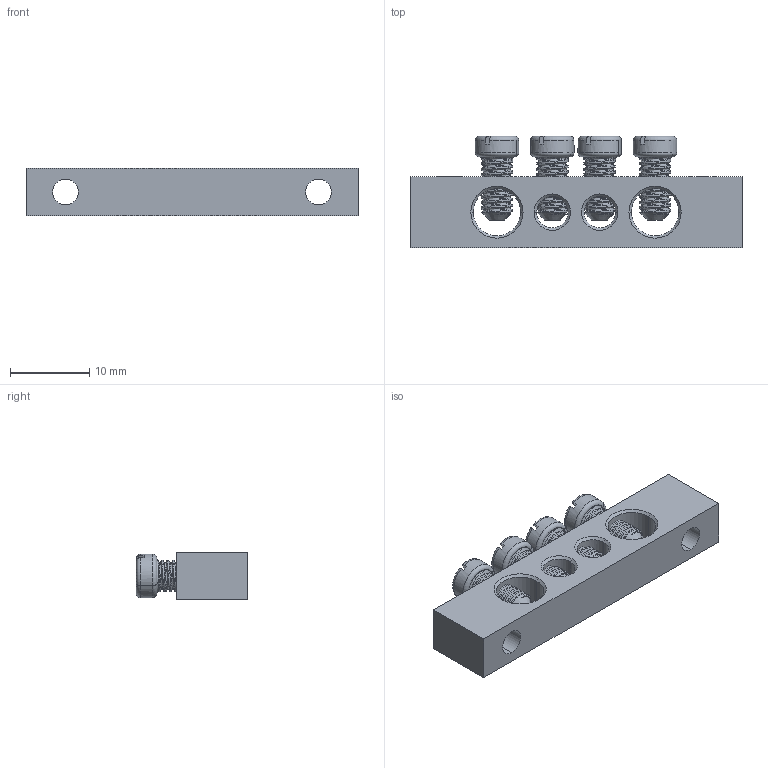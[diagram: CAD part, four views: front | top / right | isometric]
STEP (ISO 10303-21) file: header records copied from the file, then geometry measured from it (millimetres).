
FILE_DESCRIPTION (( 'STEP AP214' ), '1' );
FILE_NAME ('277985 OptiKit BB-PEN-S-4-6õ9-2.STEP', '2020-02-07T06:32:57', ( '' ), ( '' ), 'SwSTEP 2.0', 'SolidWorks 2018', '' );
FILE_SCHEMA (( 'AUTOMOTIVE_DESIGN' ));
Length unit declared in the file: millimetre
Products named in the file (3): Âèíò ì4; Øèíà 6õ9 4 2; 277985 OptiKit BB-PEN-S-4-6õ9-2
Assembly tree (5 placements, depth 2):
  277985 OptiKit BB-PEN-S-4-6õ9-2
    Øèíà 6õ9 4 2
    Âèíò ì4  x4
Bounding box: 42 x 14.1 x 6 mm (x, y, z)
Volume: 2099.7 mm3; surface area: 2641.5 mm2
Topology: 5 solids, 5 shells, 322 faces, 892 edges, 576 vertices
Faces by surface type: plane 114, cylinder 112, cone 52, torus 28, bspline 16
Entity records: 5851 total; most frequent: CARTESIAN_POINT 2932, ORIENTED_EDGE 598, DIRECTION 522, EDGE_CURVE 299, AXIS2_PLACEMENT_3D 201, VERTEX_POINT 192, EDGE_LOOP 133, VECTOR 120
